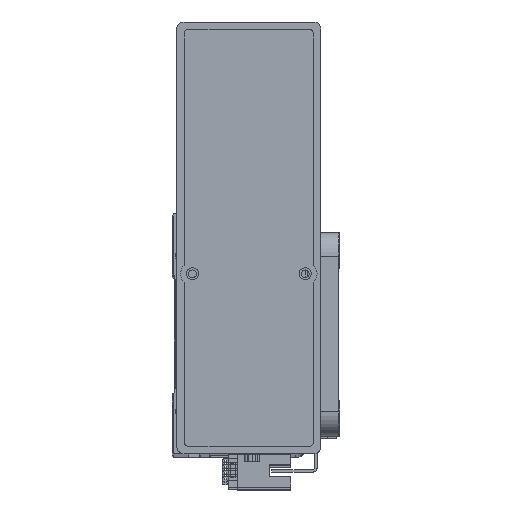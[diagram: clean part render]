
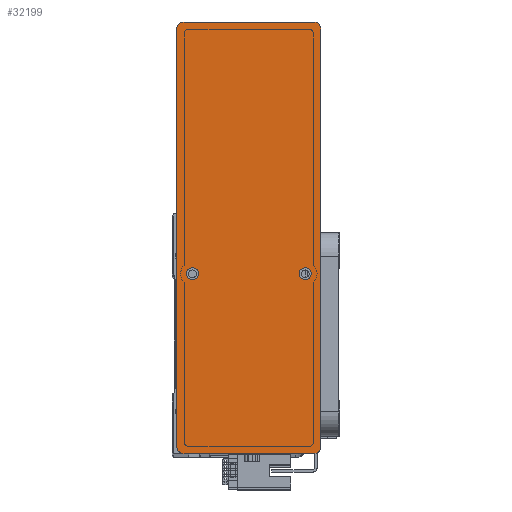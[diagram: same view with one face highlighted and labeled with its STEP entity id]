
A CAD part, top view. The second image highlights one B-rep face of the part: STEP entity #32199.
In plain terms, the highlighted planar face has unit normal (0, 0, 1) as drawn and (0, 0, -1) by its records, which use the part's own axes.
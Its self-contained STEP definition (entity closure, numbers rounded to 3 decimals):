
#1 = VERTEX_POINT ( 'NONE', #29018 ) ;
#204 = VERTEX_POINT ( 'NONE', #49894 ) ;
#206 = EDGE_CURVE ( 'NONE', #30679, #204, #14568, .T. ) ;
#530 = ORIENTED_EDGE ( 'NONE', *, *, #42648, .T. ) ;
#640 = DIRECTION ( 'NONE',  ( -1., 0., 0. ) ) ;
#704 = VECTOR ( 'NONE', #48842, 1000. ) ;
#1018 = DIRECTION ( 'NONE',  ( 1., 0., 0. ) ) ;
#1370 = PLANE ( 'NONE',  #19284 ) ;
#3741 = DIRECTION ( 'NONE',  ( -1., 0., 0. ) ) ;
#3872 = DIRECTION ( 'NONE',  ( 0., 0., -1. ) ) ;
#3900 = CARTESIAN_POINT ( 'NONE',  ( -17.5, -23.5, 0. ) ) ;
#4386 = ORIENTED_EDGE ( 'NONE', *, *, #12431, .F. ) ;
#4471 = DIRECTION ( 'NONE',  ( -1., 0., 0. ) ) ;
#5114 = ORIENTED_EDGE ( 'NONE', *, *, #58963, .T. ) ;
#5554 = CIRCLE ( 'NONE', #50989, 3. ) ;
#6066 = DIRECTION ( 'NONE',  ( 0., 0., 1. ) ) ;
#6334 = CARTESIAN_POINT ( 'NONE',  ( 87., 27., 0. ) ) ;
#6400 = CARTESIAN_POINT ( 'NONE',  ( -12.5, 23.5, 0. ) ) ;
#7800 = VERTEX_POINT ( 'NONE', #24593 ) ;
#8460 = CIRCLE ( 'NONE', #35695, 2.5 ) ;
#8974 = VERTEX_POINT ( 'NONE', #55412 ) ;
#9848 = AXIS2_PLACEMENT_3D ( 'NONE', #53488, #25898, #58114 ) ;
#10101 = AXIS2_PLACEMENT_3D ( 'NONE', #45773, #18098, #50368 ) ;
#10475 = CARTESIAN_POINT ( 'NONE',  ( -15., 23.5, 0. ) ) ;
#10971 = AXIS2_PLACEMENT_3D ( 'NONE', #55983, #28369, #640 ) ;
#10974 = DIRECTION ( 'NONE',  ( 1., 0., 0. ) ) ;
#11189 = VERTEX_POINT ( 'NONE', #15199 ) ;
#11272 = LINE ( 'NONE', #36105, #46660 ) ;
#11576 = CARTESIAN_POINT ( 'NONE',  ( -90., -27., 0. ) ) ;
#11909 = LINE ( 'NONE', #28764, #17691 ) ;
#12302 = EDGE_CURVE ( 'NONE', #1, #51985, #5554, .T. ) ;
#12431 = EDGE_CURVE ( 'NONE', #7800, #51985, #23886, .T. ) ;
#13429 = CIRCLE ( 'NONE', #50943, 3. ) ;
#14004 = EDGE_CURVE ( 'NONE', #46663, #11189, #11909, .T. ) ;
#14568 = CIRCLE ( 'NONE', #50334, 2.5 ) ;
#14812 = EDGE_CURVE ( 'NONE', #15950, #16793, #28362, .T. ) ;
#15084 = DIRECTION ( 'NONE',  ( -1., 0., 0. ) ) ;
#15199 = CARTESIAN_POINT ( 'NONE',  ( 87., -30., 0. ) ) ;
#15950 = VERTEX_POINT ( 'NONE', #55323 ) ;
#16793 = VERTEX_POINT ( 'NONE', #6400 ) ;
#17407 = FACE_OUTER_BOUND ( 'NONE', #40668, .T. ) ;
#17691 = VECTOR ( 'NONE', #1018, 1000. ) ;
#18098 = DIRECTION ( 'NONE',  ( 0., 0., -1. ) ) ;
#18963 = CARTESIAN_POINT ( 'NONE',  ( -87., -27., 0. ) ) ;
#19214 = CIRCLE ( 'NONE', #10101, 3. ) ;
#19284 = AXIS2_PLACEMENT_3D ( 'NONE', #29129, #6066, #38359 ) ;
#21526 = ORIENTED_EDGE ( 'NONE', *, *, #26971, .F. ) ;
#22627 = EDGE_CURVE ( 'NONE', #1, #31646, #11272, .T. ) ;
#22735 = VECTOR ( 'NONE', #40335, 1000. ) ;
#23652 = DIRECTION ( 'NONE',  ( 1., 0., 0. ) ) ;
#23886 = LINE ( 'NONE', #44267, #704 ) ;
#24593 = CARTESIAN_POINT ( 'NONE',  ( 90., -27., 0. ) ) ;
#24833 = ORIENTED_EDGE ( 'NONE', *, *, #12302, .T. ) ;
#25655 = ORIENTED_EDGE ( 'NONE', *, *, #38344, .F. ) ;
#25898 = DIRECTION ( 'NONE',  ( 0., 0., -1. ) ) ;
#26289 = AXIS2_PLACEMENT_3D ( 'NONE', #10475, #42762, #15084 ) ;
#26971 = EDGE_CURVE ( 'NONE', #16793, #15950, #36148, .T. ) ;
#27850 = EDGE_CURVE ( 'NONE', #204, #30679, #8460, .T. ) ;
#28362 = CIRCLE ( 'NONE', #10971, 2.5 ) ;
#28369 = DIRECTION ( 'NONE',  ( 0., 0., -1. ) ) ;
#28764 = CARTESIAN_POINT ( 'NONE',  ( 90., -30., 0. ) ) ;
#29018 = CARTESIAN_POINT ( 'NONE',  ( 87., 30., 0. ) ) ;
#29129 = CARTESIAN_POINT ( 'NONE',  ( 0., 0., 0. ) ) ;
#29384 = VERTEX_POINT ( 'NONE', #11576 ) ;
#29773 = FACE_BOUND ( 'NONE', #53731, .T. ) ;
#30679 = VERTEX_POINT ( 'NONE', #3900 ) ;
#30721 = ORIENTED_EDGE ( 'NONE', *, *, #22627, .F. ) ;
#30798 = ORIENTED_EDGE ( 'NONE', *, *, #206, .F. ) ;
#31636 = CARTESIAN_POINT ( 'NONE',  ( -15., -23.5, 0. ) ) ;
#31646 = VERTEX_POINT ( 'NONE', #53679 ) ;
#32199 = ADVANCED_FACE ( 'NONE', ( #41992, #29773, #17407 ), #1370, .F. ) ;
#32211 = DIRECTION ( 'NONE',  ( 0., 0., -1. ) ) ;
#32344 = ORIENTED_EDGE ( 'NONE', *, *, #14812, .F. ) ;
#32941 = CIRCLE ( 'NONE', #9848, 3. ) ;
#35191 = ORIENTED_EDGE ( 'NONE', *, *, #54844, .T. ) ;
#35695 = AXIS2_PLACEMENT_3D ( 'NONE', #59741, #32211, #4471 ) ;
#36105 = CARTESIAN_POINT ( 'NONE',  ( 90., 30., 0. ) ) ;
#36148 = CIRCLE ( 'NONE', #26289, 2.5 ) ;
#36204 = ORIENTED_EDGE ( 'NONE', *, *, #27850, .F. ) ;
#36238 = DIRECTION ( 'NONE',  ( -1., 0., 0. ) ) ;
#38344 = EDGE_CURVE ( 'NONE', #8974, #29384, #48656, .T. ) ;
#38359 = DIRECTION ( 'NONE',  ( 1., 0., 0. ) ) ;
#38620 = DIRECTION ( 'NONE',  ( 0., 0., -1. ) ) ;
#40335 = DIRECTION ( 'NONE',  ( 0., -1., 0. ) ) ;
#40668 = EDGE_LOOP ( 'NONE', ( #4386, #35191, #49333, #530, #25655, #5114, #30721, #24833 ) ) ;
#41992 = FACE_BOUND ( 'NONE', #45077, .T. ) ;
#42648 = EDGE_CURVE ( 'NONE', #46663, #29384, #13429, .T. ) ;
#42762 = DIRECTION ( 'NONE',  ( 0., 0., -1. ) ) ;
#44267 = CARTESIAN_POINT ( 'NONE',  ( 90., -30., 0. ) ) ;
#44962 = CARTESIAN_POINT ( 'NONE',  ( -90., -30., 0. ) ) ;
#45077 = EDGE_LOOP ( 'NONE', ( #32344, #21526 ) ) ;
#45773 = CARTESIAN_POINT ( 'NONE',  ( -87., 27., 0. ) ) ;
#46660 = VECTOR ( 'NONE', #3741, 1000. ) ;
#46663 = VERTEX_POINT ( 'NONE', #53832 ) ;
#48656 = LINE ( 'NONE', #44962, #22735 ) ;
#48842 = DIRECTION ( 'NONE',  ( 0., 1., 0. ) ) ;
#49333 = ORIENTED_EDGE ( 'NONE', *, *, #14004, .F. ) ;
#49518 = CARTESIAN_POINT ( 'NONE',  ( 90., 27., 0. ) ) ;
#49894 = CARTESIAN_POINT ( 'NONE',  ( -12.5, -23.5, 0. ) ) ;
#50334 = AXIS2_PLACEMENT_3D ( 'NONE', #31636, #3872, #36238 ) ;
#50368 = DIRECTION ( 'NONE',  ( 1., 0., 0. ) ) ;
#50943 = AXIS2_PLACEMENT_3D ( 'NONE', #18963, #51239, #23652 ) ;
#50989 = AXIS2_PLACEMENT_3D ( 'NONE', #6334, #38620, #10974 ) ;
#51239 = DIRECTION ( 'NONE',  ( 0., 0., -1. ) ) ;
#51985 = VERTEX_POINT ( 'NONE', #49518 ) ;
#53488 = CARTESIAN_POINT ( 'NONE',  ( 87., -27., 0. ) ) ;
#53679 = CARTESIAN_POINT ( 'NONE',  ( -87., 30., 0. ) ) ;
#53731 = EDGE_LOOP ( 'NONE', ( #30798, #36204 ) ) ;
#53832 = CARTESIAN_POINT ( 'NONE',  ( -87., -30., 0. ) ) ;
#54844 = EDGE_CURVE ( 'NONE', #7800, #11189, #32941, .T. ) ;
#55323 = CARTESIAN_POINT ( 'NONE',  ( -17.5, 23.5, 0. ) ) ;
#55412 = CARTESIAN_POINT ( 'NONE',  ( -90., 27., 0. ) ) ;
#55983 = CARTESIAN_POINT ( 'NONE',  ( -15., 23.5, 0. ) ) ;
#58114 = DIRECTION ( 'NONE',  ( 1., 0., 0. ) ) ;
#58963 = EDGE_CURVE ( 'NONE', #8974, #31646, #19214, .T. ) ;
#59741 = CARTESIAN_POINT ( 'NONE',  ( -15., -23.5, 0. ) ) ;
